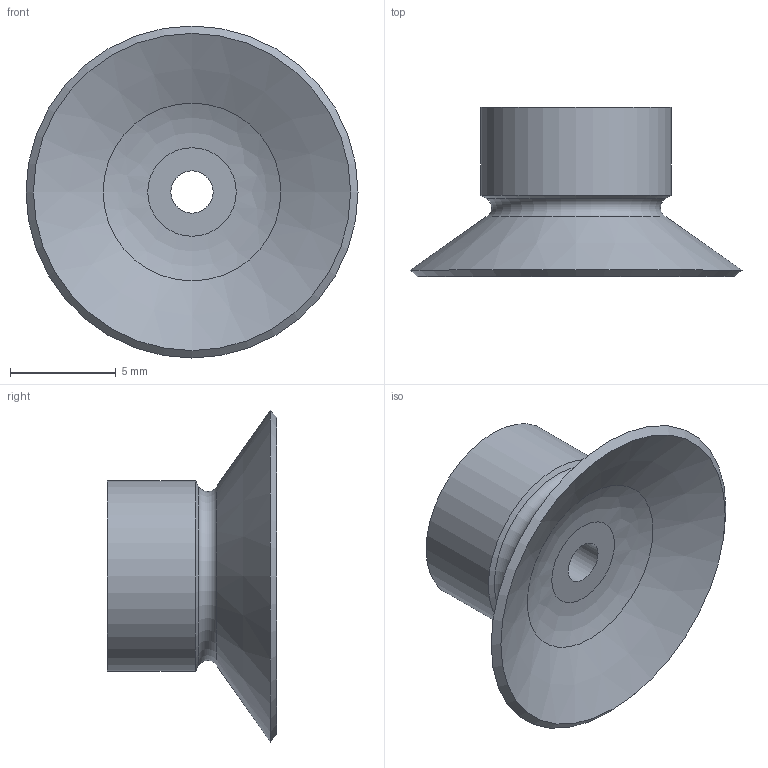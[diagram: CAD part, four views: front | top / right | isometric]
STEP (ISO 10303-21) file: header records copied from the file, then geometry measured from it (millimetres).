
FILE_DESCRIPTION(('STEP AP203'),'1');
FILE_NAME('_3D.stp','2024-06-11T23:44:56',(' '),(' '),'Spatial InterOp 3D',' ',' ');
FILE_SCHEMA(('CONFIG_CONTROL_DESIGN'));
Length unit declared in the file: millimetre
Products named in the file (1): 1
Bounding box: 15.7 x 8 x 15.7 mm (x, y, z)
Volume: 398.1 mm3; surface area: 687.4 mm2
Topology: 1 solids, 1 shells, 19 faces, 41 edges, 26 vertices
Faces by surface type: torus 6, cone 4, cylinder 4, plane 4, bspline 1
Full cylindrical faces by diameter (mm): 2 x1, 4 x1, 6 x1, 9 x1
Entity records: 455 total; most frequent: CARTESIAN_POINT 85, DIRECTION 76, AXIS2_PLACEMENT_3D 38, EDGE_LOOP 38, ORIENTED_EDGE 38, FACE_OUTER_BOUND 30, ADVANCED_FACE 19, EDGE_CURVE 19
